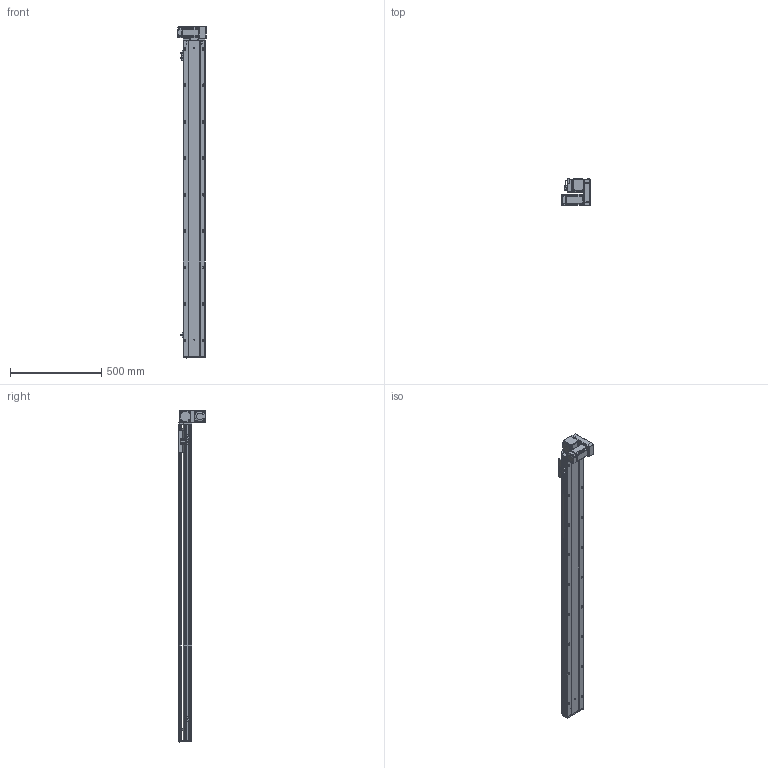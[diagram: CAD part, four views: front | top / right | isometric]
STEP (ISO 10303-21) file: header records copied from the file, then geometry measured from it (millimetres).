
FILE_DESCRIPTION (( 'STEP AP203' ), '1' );
FILE_NAME ('RY120-T-300-DR.SLDASM_1500.step', '2021-03-01T03:36:34', ( '盈信电脑' ), ( '东莞市道滘镇水果街19号' ), 'SwSTEP 2.0', 'SolidWorks 2012', '' );
FILE_SCHEMA (( 'CONFIG_CONTROL_DESIGN' ));
Length unit declared in the file: millimetre
Products named in the file (17): RY120-T-300-DR.SLDASM_1500; RY120-T主同步轮轴承压盖; RY120-T萇儂欶; RY120-T蹟翐M4; RY120-T萇儂假蚾啣; 15; 滅袉蝶18-10; RY120-T肮祭湍揤踡輸2; RY120-T翋肮祭盓傅釱; RY120-T翋肮祭謫裔啣; RY120外置感应片(140共用）; 覜茼ん672; RY120綴裔啣; RY120-T肮祭湍揤踡輸1; RY120-T-300-DR倰第奻裔啣_1500; RY120-T-300-DR倰第菁釱_1500; RY120肮祭湍臏賑輸
Assembly tree (22 placements, depth 2):
  RY120-T-300-DR.SLDASM_1500
    RY120-T-300-DR倰第菁釱_1500
    RY120-T-300-DR倰第奻裔啣_1500
    RY120肮祭湍臏賑輸
    RY120綴裔啣
    覜茼ん672  x3
    RY120外置感应片(140共用）
    RY120-T肮祭湍揤踡輸1
    RY120-T肮祭湍揤踡輸2
    RY120-T翋肮祭盓傅釱
    滅袉蝶18-10  x2
    RY120-T翋肮祭謫裔啣
    15
    RY120-T萇儂假蚾啣
    RY120-T蹟翐M4  x4
    RY120-T萇儂欶
    RY120-T主同步轮轴承压盖
Bounding box: 155.5 x 150 x 1821 mm (x, y, z)
Volume: 4711923.7 mm3; surface area: 1784425.5 mm2
Topology: 23 solids, 23 shells, 2968 faces, 8104 edges, 5176 vertices
Faces by surface type: plane 1432, cylinder 1158, cone 289, bspline 89
Entity records: 94885 total; most frequent: CARTESIAN_POINT 24446, ORIENTED_EDGE 14560, DIRECTION 13766, EDGE_CURVE 7280, VERTEX_POINT 4763, AXIS2_PLACEMENT_3D 4647, VECTOR 4472, LINE 4472
